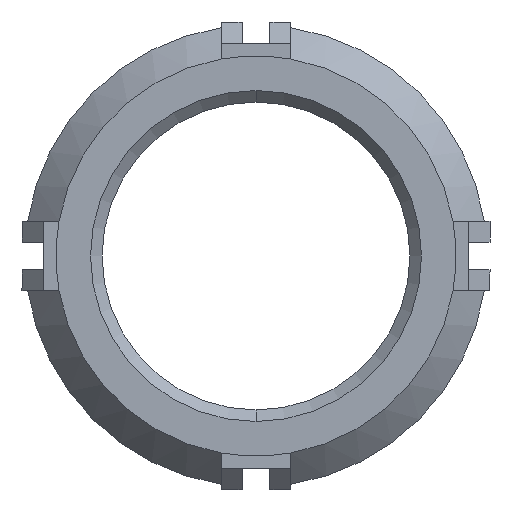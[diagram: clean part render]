
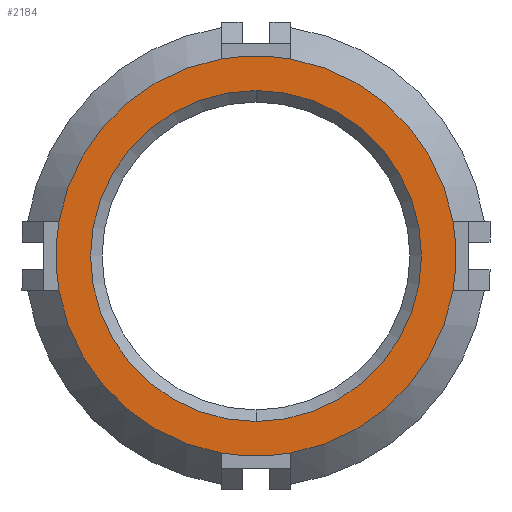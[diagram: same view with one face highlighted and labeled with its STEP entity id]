
A CAD part, front view. The second image highlights one B-rep face of the part: STEP entity #2184.
In plain terms, the highlighted planar face has unit normal (0, -1, 0).
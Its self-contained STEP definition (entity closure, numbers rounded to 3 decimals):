
#22 = CARTESIAN_POINT ( 'NONE',  ( 0., -30., 0. ) ) ;
#109 = DIRECTION ( 'NONE',  ( 0., -1., 0. ) ) ;
#153 = CIRCLE ( 'NONE', #5100, 10.75 ) ;
#327 = DIRECTION ( 'NONE',  ( 0., 0., 1. ) ) ;
#432 = VERTEX_POINT ( 'NONE', #1914 ) ;
#531 = DIRECTION ( 'NONE',  ( 0., 0., 1. ) ) ;
#552 = CIRCLE ( 'NONE', #2206, 13. ) ;
#590 = DIRECTION ( 'NONE',  ( 0., 1., 0. ) ) ;
#599 = DIRECTION ( 'NONE',  ( 0., 0., 1. ) ) ;
#770 = CARTESIAN_POINT ( 'NONE',  ( 0., -30., 0. ) ) ;
#774 = VERTEX_POINT ( 'NONE', #1680 ) ;
#881 = CARTESIAN_POINT ( 'NONE',  ( 0., -30., 0. ) ) ;
#889 = CARTESIAN_POINT ( 'NONE',  ( -2.25, -30., -12.804 ) ) ;
#955 = CARTESIAN_POINT ( 'NONE',  ( 0., -30., -10.75 ) ) ;
#1085 = FACE_BOUND ( 'NONE', #1180, .T. ) ;
#1180 = EDGE_LOOP ( 'NONE', ( #1567, #1688 ) ) ;
#1258 = EDGE_LOOP ( 'NONE', ( #1324, #6287, #4823, #2149, #4213, #3483, #5530, #6136 ) ) ;
#1260 = DIRECTION ( 'NONE',  ( 0., -1., 0. ) ) ;
#1274 = CARTESIAN_POINT ( 'NONE',  ( 12.804, -30., -2.25 ) ) ;
#1324 = ORIENTED_EDGE ( 'NONE', *, *, #2385, .T. ) ;
#1328 = CIRCLE ( 'NONE', #3422, 13. ) ;
#1470 = DIRECTION ( 'NONE',  ( 0., 1., 0. ) ) ;
#1507 = VERTEX_POINT ( 'NONE', #1274 ) ;
#1567 = ORIENTED_EDGE ( 'NONE', *, *, #5025, .T. ) ;
#1647 = CARTESIAN_POINT ( 'NONE',  ( -12.804, -30., 2.25 ) ) ;
#1680 = CARTESIAN_POINT ( 'NONE',  ( 2.25, -30., 12.804 ) ) ;
#1688 = ORIENTED_EDGE ( 'NONE', *, *, #4754, .T. ) ;
#1736 = CARTESIAN_POINT ( 'NONE',  ( 0., -30., 0. ) ) ;
#1812 = VERTEX_POINT ( 'NONE', #1647 ) ;
#1839 = CARTESIAN_POINT ( 'NONE',  ( 12.804, -30., 2.25 ) ) ;
#1914 = CARTESIAN_POINT ( 'NONE',  ( -12.804, -30., -2.25 ) ) ;
#1916 = DIRECTION ( 'NONE',  ( 0., -1., 0. ) ) ;
#2066 = EDGE_CURVE ( 'NONE', #3090, #1507, #1328, .T. ) ;
#2149 = ORIENTED_EDGE ( 'NONE', *, *, #2066, .T. ) ;
#2184 = ADVANCED_FACE ( 'NONE', ( #1085, #5152 ), #5227, .F. ) ;
#2206 = AXIS2_PLACEMENT_3D ( 'NONE', #2775, #1260, #599 ) ;
#2305 = EDGE_CURVE ( 'NONE', #5237, #3090, #2532, .T. ) ;
#2335 = CIRCLE ( 'NONE', #5430, 13. ) ;
#2380 = DIRECTION ( 'NONE',  ( 0., 1., 0. ) ) ;
#2385 = EDGE_CURVE ( 'NONE', #1812, #432, #552, .T. ) ;
#2471 = CARTESIAN_POINT ( 'NONE',  ( 0., -30., 0. ) ) ;
#2532 = CIRCLE ( 'NONE', #3858, 13. ) ;
#2594 = VERTEX_POINT ( 'NONE', #4728 ) ;
#2727 = DIRECTION ( 'NONE',  ( 0., 0., 1. ) ) ;
#2775 = CARTESIAN_POINT ( 'NONE',  ( 0., -30., 0. ) ) ;
#2787 = DIRECTION ( 'NONE',  ( 0., 0., -1. ) ) ;
#2818 = DIRECTION ( 'NONE',  ( 0., -1., 0. ) ) ;
#2838 = DIRECTION ( 'NONE',  ( 0., -1., 0. ) ) ;
#2876 = DIRECTION ( 'NONE',  ( 0., -1., 0. ) ) ;
#2885 = CIRCLE ( 'NONE', #4116, 13. ) ;
#2998 = CARTESIAN_POINT ( 'NONE',  ( 2.25, -30., -12.804 ) ) ;
#3090 = VERTEX_POINT ( 'NONE', #2998 ) ;
#3329 = VERTEX_POINT ( 'NONE', #1839 ) ;
#3350 = AXIS2_PLACEMENT_3D ( 'NONE', #3729, #590, #2727 ) ;
#3422 = AXIS2_PLACEMENT_3D ( 'NONE', #770, #2876, #327 ) ;
#3483 = ORIENTED_EDGE ( 'NONE', *, *, #5705, .T. ) ;
#3627 = CARTESIAN_POINT ( 'NONE',  ( 0., -30., 10.75 ) ) ;
#3690 = DIRECTION ( 'NONE',  ( 0., 0., 1. ) ) ;
#3729 = CARTESIAN_POINT ( 'NONE',  ( 0., -30., 0. ) ) ;
#3855 = DIRECTION ( 'NONE',  ( 0., -1., 0. ) ) ;
#3858 = AXIS2_PLACEMENT_3D ( 'NONE', #1736, #2838, #4356 ) ;
#3883 = CIRCLE ( 'NONE', #4095, 13. ) ;
#3922 = CARTESIAN_POINT ( 'NONE',  ( 0., -30., 0. ) ) ;
#3984 = AXIS2_PLACEMENT_3D ( 'NONE', #2471, #5580, #6227 ) ;
#4095 = AXIS2_PLACEMENT_3D ( 'NONE', #3922, #3855, #5512 ) ;
#4116 = AXIS2_PLACEMENT_3D ( 'NONE', #881, #1916, #6154 ) ;
#4213 = ORIENTED_EDGE ( 'NONE', *, *, #5960, .T. ) ;
#4265 = CARTESIAN_POINT ( 'NONE',  ( 0., -30., 0. ) ) ;
#4276 = EDGE_CURVE ( 'NONE', #432, #5237, #2335, .T. ) ;
#4335 = EDGE_CURVE ( 'NONE', #2594, #1812, #3883, .T. ) ;
#4337 = AXIS2_PLACEMENT_3D ( 'NONE', #4853, #2818, #2787 ) ;
#4356 = DIRECTION ( 'NONE',  ( -1., 0., 0. ) ) ;
#4515 = CARTESIAN_POINT ( 'NONE',  ( 0., -30., 0. ) ) ;
#4534 = CIRCLE ( 'NONE', #3984, 13. ) ;
#4728 = CARTESIAN_POINT ( 'NONE',  ( -2.25, -30., 12.804 ) ) ;
#4754 = EDGE_CURVE ( 'NONE', #4940, #5727, #153, .T. ) ;
#4823 = ORIENTED_EDGE ( 'NONE', *, *, #2305, .T. ) ;
#4853 = CARTESIAN_POINT ( 'NONE',  ( 0., -30., 0. ) ) ;
#4940 = VERTEX_POINT ( 'NONE', #3627 ) ;
#5025 = EDGE_CURVE ( 'NONE', #5727, #4940, #5106, .T. ) ;
#5100 = AXIS2_PLACEMENT_3D ( 'NONE', #4515, #2380, #6524 ) ;
#5106 = CIRCLE ( 'NONE', #3350, 10.75 ) ;
#5152 = FACE_OUTER_BOUND ( 'NONE', #1258, .T. ) ;
#5227 = PLANE ( 'NONE',  #6277 ) ;
#5237 = VERTEX_POINT ( 'NONE', #889 ) ;
#5430 = AXIS2_PLACEMENT_3D ( 'NONE', #4265, #109, #3690 ) ;
#5512 = DIRECTION ( 'NONE',  ( 0., 0., 1. ) ) ;
#5530 = ORIENTED_EDGE ( 'NONE', *, *, #5643, .T. ) ;
#5580 = DIRECTION ( 'NONE',  ( 0., -1., 0. ) ) ;
#5643 = EDGE_CURVE ( 'NONE', #774, #2594, #4534, .T. ) ;
#5705 = EDGE_CURVE ( 'NONE', #3329, #774, #2885, .T. ) ;
#5727 = VERTEX_POINT ( 'NONE', #955 ) ;
#5960 = EDGE_CURVE ( 'NONE', #1507, #3329, #6433, .T. ) ;
#6136 = ORIENTED_EDGE ( 'NONE', *, *, #4335, .T. ) ;
#6154 = DIRECTION ( 'NONE',  ( 0., 0., 1. ) ) ;
#6227 = DIRECTION ( 'NONE',  ( 1., 0., 0. ) ) ;
#6277 = AXIS2_PLACEMENT_3D ( 'NONE', #22, #1470, #531 ) ;
#6287 = ORIENTED_EDGE ( 'NONE', *, *, #4276, .T. ) ;
#6433 = CIRCLE ( 'NONE', #4337, 13. ) ;
#6524 = DIRECTION ( 'NONE',  ( 0., 0., 1. ) ) ;
